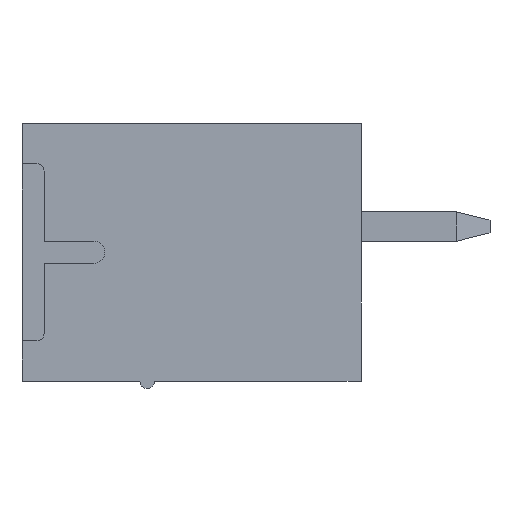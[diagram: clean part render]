
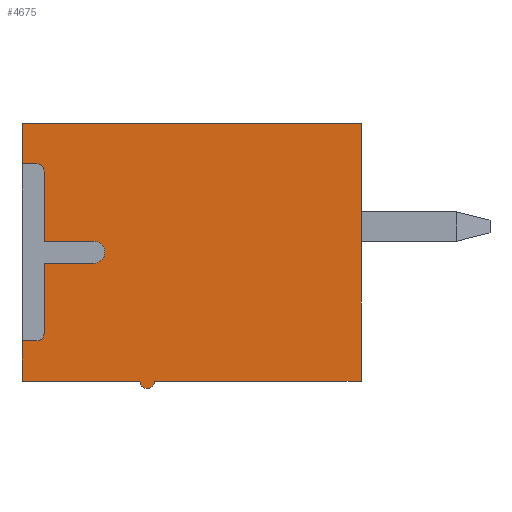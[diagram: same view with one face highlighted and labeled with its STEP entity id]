
A CAD part, left-side view. The second image highlights one B-rep face of the part: STEP entity #4675.
In plain terms, the highlighted planar face has unit normal (-1, 0, 0).
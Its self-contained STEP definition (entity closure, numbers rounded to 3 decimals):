
#47=DIRECTION('',(0.,0.,1.));
#48=VECTOR('',#47,1.1);
#49=CARTESIAN_POINT('',(7.,9.2,5.9));
#50=LINE('',#49,#48);
#51=DIRECTION('',(0.,0.,1.));
#52=VECTOR('',#51,1.1);
#53=CARTESIAN_POINT('',(7.,9.2,0.));
#54=LINE('',#53,#52);
#599=DIRECTION('',(0.,0.,1.));
#600=VECTOR('',#599,7.);
#601=CARTESIAN_POINT('',(7.,0.,0.));
#602=LINE('',#601,#600);
#603=DIRECTION('',(0.,-1.,0.));
#604=VECTOR('',#603,5.6);
#605=CARTESIAN_POINT('',(7.,5.6,0.));
#606=LINE('',#605,#604);
#607=CARTESIAN_POINT('',(7.,5.8,0.));
#608=DIRECTION('',(-1.,0.,0.));
#609=DIRECTION('',(0.,1.,0.));
#610=AXIS2_PLACEMENT_3D('',#607,#608,#609);
#612=DIRECTION('',(0.,-1.,0.));
#613=VECTOR('',#612,3.2);
#614=CARTESIAN_POINT('',(7.,9.2,0.));
#615=LINE('',#614,#613);
#628=DIRECTION('',(0.,-1.,0.));
#629=VECTOR('',#628,0.4);
#630=CARTESIAN_POINT('',(7.,9.2,1.1));
#631=LINE('',#630,#629);
#644=DIRECTION('',(0.,1.,0.));
#645=VECTOR('',#644,0.4);
#646=CARTESIAN_POINT('',(7.,8.8,5.9));
#647=LINE('',#646,#645);
#657=CARTESIAN_POINT('',(7.,8.8,5.7));
#658=DIRECTION('',(-1.,0.,0.));
#659=DIRECTION('',(0.,-1.,0.));
#660=AXIS2_PLACEMENT_3D('',#657,#658,#659);
#670=DIRECTION('',(0.,0.,1.));
#671=VECTOR('',#670,1.9);
#672=CARTESIAN_POINT('',(7.,8.6,3.8));
#673=LINE('',#672,#671);
#682=DIRECTION('',(0.,1.,0.));
#683=VECTOR('',#682,1.35);
#684=CARTESIAN_POINT('',(7.,7.25,3.8));
#685=LINE('',#684,#683);
#695=CARTESIAN_POINT('',(7.,7.25,3.5));
#696=DIRECTION('',(-1.,0.,0.));
#697=DIRECTION('',(0.,0.,-1.));
#698=AXIS2_PLACEMENT_3D('',#695,#696,#697);
#708=DIRECTION('',(0.,-1.,0.));
#709=VECTOR('',#708,1.35);
#710=CARTESIAN_POINT('',(7.,8.6,3.2));
#711=LINE('',#710,#709);
#720=DIRECTION('',(0.,0.,1.));
#721=VECTOR('',#720,1.9);
#722=CARTESIAN_POINT('',(7.,8.6,1.3));
#723=LINE('',#722,#721);
#733=CARTESIAN_POINT('',(7.,8.8,1.3));
#734=DIRECTION('',(-1.,0.,0.));
#735=DIRECTION('',(0.,0.,-1.));
#736=AXIS2_PLACEMENT_3D('',#733,#734,#735);
#746=DIRECTION('',(0.,-1.,0.));
#747=VECTOR('',#746,9.2);
#748=CARTESIAN_POINT('',(7.,9.2,7.));
#749=LINE('',#748,#747);
#3267=CARTESIAN_POINT('',(7.,5.6,0.));
#3268=CARTESIAN_POINT('',(7.,0.,0.));
#3269=VERTEX_POINT('',#3267);
#3270=VERTEX_POINT('',#3268);
#3271=CARTESIAN_POINT('',(7.,6.,0.));
#3272=VERTEX_POINT('',#3271);
#3273=CARTESIAN_POINT('',(7.,9.2,0.));
#3274=VERTEX_POINT('',#3273);
#3275=CARTESIAN_POINT('',(7.,0.,7.));
#3276=VERTEX_POINT('',#3275);
#3289=CARTESIAN_POINT('',(7.,9.2,1.1));
#3290=VERTEX_POINT('',#3289);
#3291=CARTESIAN_POINT('',(7.,8.8,1.1));
#3292=VERTEX_POINT('',#3291);
#3293=CARTESIAN_POINT('',(7.,8.6,1.3));
#3294=VERTEX_POINT('',#3293);
#3295=CARTESIAN_POINT('',(7.,8.6,3.2));
#3296=VERTEX_POINT('',#3295);
#3297=CARTESIAN_POINT('',(7.,7.25,3.2));
#3298=VERTEX_POINT('',#3297);
#3299=CARTESIAN_POINT('',(7.,7.25,3.8));
#3300=VERTEX_POINT('',#3299);
#3301=CARTESIAN_POINT('',(7.,8.6,3.8));
#3302=VERTEX_POINT('',#3301);
#3303=CARTESIAN_POINT('',(7.,8.6,5.7));
#3304=VERTEX_POINT('',#3303);
#3305=CARTESIAN_POINT('',(7.,8.8,5.9));
#3306=VERTEX_POINT('',#3305);
#3307=CARTESIAN_POINT('',(7.,9.2,5.9));
#3308=VERTEX_POINT('',#3307);
#3309=CARTESIAN_POINT('',(7.,9.2,7.));
#3310=VERTEX_POINT('',#3309);
#4642=CARTESIAN_POINT('',(7.,4.6,3.4));
#4643=DIRECTION('',(1.,0.,0.));
#4644=DIRECTION('',(0.,1.,0.));
#4645=AXIS2_PLACEMENT_3D('',#4642,#4643,#4644);
#4646=PLANE('',#4645);
#4647=ORIENTED_EDGE('',*,*,#4610,.F.);
#4648=ORIENTED_EDGE('',*,*,#3711,.F.);
#4649=ORIENTED_EDGE('',*,*,#3727,.F.);
#4650=ORIENTED_EDGE('',*,*,#3742,.F.);
#4651=ORIENTED_EDGE('',*,*,#3765,.T.);
#4653=ORIENTED_EDGE('',*,*,#4652,.T.);
#4655=ORIENTED_EDGE('',*,*,#4654,.T.);
#4657=ORIENTED_EDGE('',*,*,#4656,.T.);
#4659=ORIENTED_EDGE('',*,*,#4658,.T.);
#4661=ORIENTED_EDGE('',*,*,#4660,.T.);
#4663=ORIENTED_EDGE('',*,*,#4662,.T.);
#4665=ORIENTED_EDGE('',*,*,#4664,.T.);
#4667=ORIENTED_EDGE('',*,*,#4666,.T.);
#4669=ORIENTED_EDGE('',*,*,#4668,.T.);
#4670=ORIENTED_EDGE('',*,*,#3757,.T.);
#4672=ORIENTED_EDGE('',*,*,#4671,.T.);
#4673=EDGE_LOOP('',(#4647,#4648,#4649,#4650,#4651,#4653,#4655,#4657,#4659,#4661,
#4663,#4665,#4667,#4669,#4670,#4672));
#4674=FACE_OUTER_BOUND('',#4673,.F.);
#4675=ADVANCED_FACE('',(#4674),#4646,.F.);
#611=CIRCLE('',#610,0.2);
#661=CIRCLE('',#660,0.2);
#699=CIRCLE('',#698,0.3);
#737=CIRCLE('',#736,0.2);
#3711=EDGE_CURVE('',#3269,#3270,#606,.T.);
#3727=EDGE_CURVE('',#3272,#3269,#611,.T.);
#3742=EDGE_CURVE('',#3274,#3272,#615,.T.);
#3757=EDGE_CURVE('',#3308,#3310,#50,.T.);
#3765=EDGE_CURVE('',#3274,#3290,#54,.T.);
#4610=EDGE_CURVE('',#3270,#3276,#602,.T.);
#4652=EDGE_CURVE('',#3290,#3292,#631,.T.);
#4654=EDGE_CURVE('',#3292,#3294,#737,.T.);
#4656=EDGE_CURVE('',#3294,#3296,#723,.T.);
#4658=EDGE_CURVE('',#3296,#3298,#711,.T.);
#4660=EDGE_CURVE('',#3298,#3300,#699,.T.);
#4662=EDGE_CURVE('',#3300,#3302,#685,.T.);
#4664=EDGE_CURVE('',#3302,#3304,#673,.T.);
#4666=EDGE_CURVE('',#3304,#3306,#661,.T.);
#4668=EDGE_CURVE('',#3306,#3308,#647,.T.);
#4671=EDGE_CURVE('',#3310,#3276,#749,.T.);
